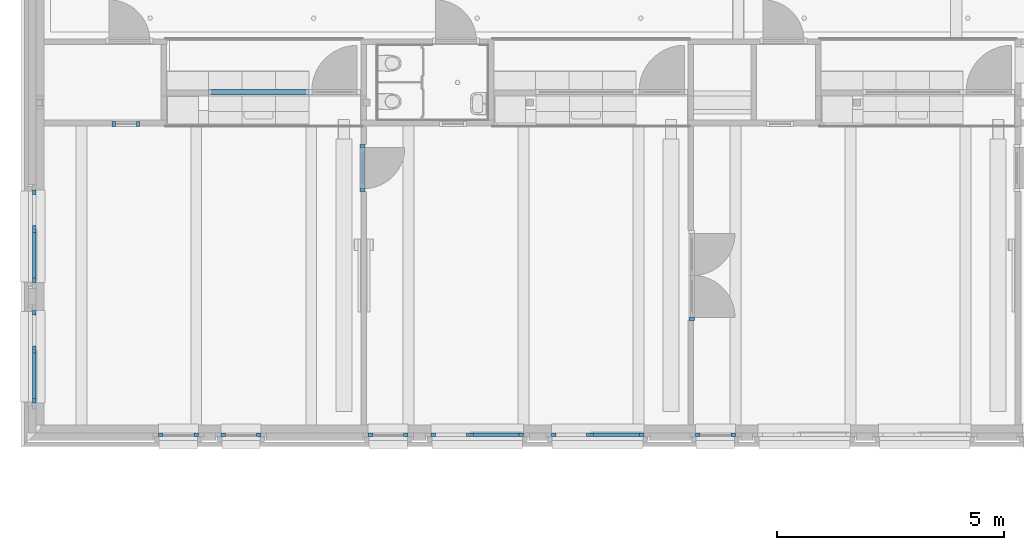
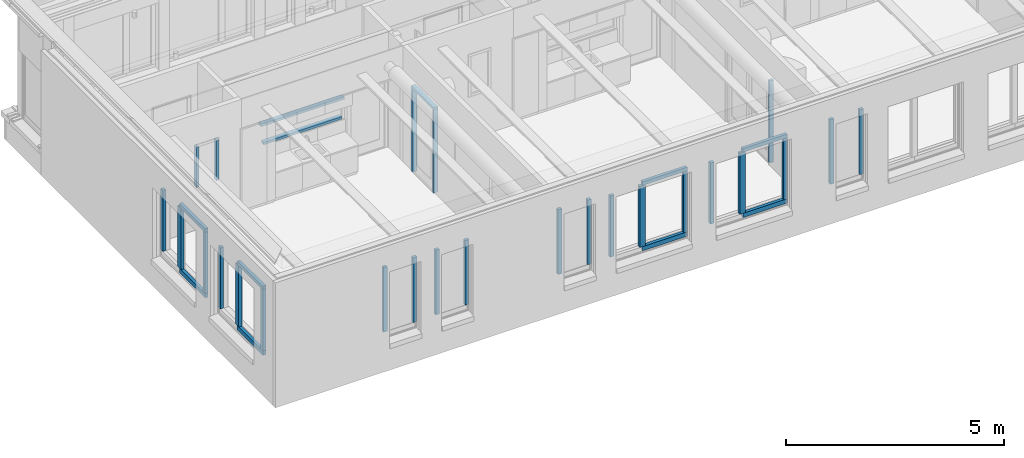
# One storey, part 13 of 128: 36 members, 12 elements without a shape of their own.
"""IFC2X3 building model written with IfcOpenShell, lengths in millimetres."""

from ifc_helpers import new_model, entity, si_unit, converted_unit, derived_unit, direction, frame, frame_2d, origin, origin_2d_with_axis, place, context, subcontext, project, spatial, rectangle, extrude, source, transform, mapped, material, type_object, type_shapes, element, aggregate, save


model = new_model("IFC2X3")

# Units and contexts
model_context = context("Model", 3, precision=0.01, world=origin(), true_north=direction((6.123031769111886e-17, 1.0)))
body_context = subcontext(model_context, "Body", "Model", "MODEL_VIEW")
ifc_project = project(units=[si_unit("LENGTHUNIT", "METRE", prefix="MILLI"), si_unit("AREAUNIT", "SQUARE_METRE"), si_unit("VOLUMEUNIT", "CUBIC_METRE"), converted_unit("PLANEANGLEUNIT", "DEGREE", entity("IfcRatioMeasure", 0.017453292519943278), si_unit("PLANEANGLEUNIT", "RADIAN"), dimensions=[0, 0, 0, 0, 0, 0, 0]), si_unit("MASSUNIT", "GRAM", prefix="KILO"), derived_unit("MASSDENSITYUNIT", [(si_unit("MASSUNIT", "GRAM", prefix="KILO"), 1), (si_unit("LENGTHUNIT", "METRE"), -3)]), derived_unit("IONCONCENTRATIONUNIT", [(si_unit("MASSUNIT", "GRAM", prefix="KILO"), 1), (si_unit("LENGTHUNIT", "METRE"), -3)]), derived_unit("MOMENTOFINERTIAUNIT", [(si_unit("LENGTHUNIT", "METRE"), 4)]), si_unit("TIMEUNIT", "SECOND"), si_unit("FREQUENCYUNIT", "HERTZ"), si_unit("THERMODYNAMICTEMPERATUREUNIT", "DEGREE_CELSIUS"), derived_unit("THERMALTRANSMITTANCEUNIT", [(si_unit("MASSUNIT", "GRAM", prefix="KILO"), 1), (si_unit("THERMODYNAMICTEMPERATUREUNIT", "KELVIN"), -1), (si_unit("TIMEUNIT", "SECOND"), -3)]), derived_unit("THERMALCONDUCTANCEUNIT", [(si_unit("MASSUNIT", "GRAM", prefix="KILO"), 1), (si_unit("THERMODYNAMICTEMPERATUREUNIT", "KELVIN"), -1), (si_unit("TIMEUNIT", "SECOND"), -3), (si_unit("LENGTHUNIT", "METRE"), 1)]), derived_unit("VOLUMETRICFLOWRATEUNIT", [(si_unit("LENGTHUNIT", "METRE"), 3), (si_unit("TIMEUNIT", "SECOND"), -1)]), derived_unit("MASSFLOWRATEUNIT", [(si_unit("MASSUNIT", "GRAM", prefix="KILO"), 1), (si_unit("TIMEUNIT", "SECOND"), -1)]), derived_unit("ROTATIONALFREQUENCYUNIT", [(si_unit("TIMEUNIT", "SECOND"), -1)]), si_unit("ELECTRICCURRENTUNIT", "AMPERE"), si_unit("ELECTRICVOLTAGEUNIT", "VOLT"), si_unit("POWERUNIT", "WATT"), si_unit("FORCEUNIT", "NEWTON", prefix="KILO"), si_unit("ILLUMINANCEUNIT", "LUX"), si_unit("LUMINOUSFLUXUNIT", "LUMEN"), si_unit("LUMINOUSINTENSITYUNIT", "CANDELA"), derived_unit("USERDEFINED", [(si_unit("MASSUNIT", "GRAM", prefix="KILO"), -1), (si_unit("LENGTHUNIT", "METRE"), -2), (si_unit("TIMEUNIT", "SECOND"), 3), (si_unit("LUMINOUSFLUXUNIT", "LUMEN"), 1)]), derived_unit("USERDEFINED", [(si_unit("MASSUNIT", "GRAM", prefix="KILO"), 1), (si_unit("TIMEUNIT", "SECOND"), -3), (si_unit("LENGTHUNIT", "METRE"), 3), (si_unit("ELECTRICCURRENTUNIT", "AMPERE"), -2)]), derived_unit("SOUNDPOWERUNIT", [(si_unit("MASSUNIT", "GRAM", prefix="KILO"), 1), (si_unit("TIMEUNIT", "SECOND"), -3), (si_unit("LENGTHUNIT", "METRE"), 2)]), derived_unit("SOUNDPRESSUREUNIT", [(si_unit("MASSUNIT", "GRAM", prefix="KILO"), 1), (si_unit("LENGTHUNIT", "METRE"), -1), (si_unit("TIMEUNIT", "SECOND"), -2)]), derived_unit("LINEARVELOCITYUNIT", [(si_unit("LENGTHUNIT", "METRE"), 1), (si_unit("TIMEUNIT", "SECOND"), -1)]), si_unit("PRESSUREUNIT", "PASCAL"), derived_unit("USERDEFINED", [(si_unit("MASSUNIT", "GRAM", prefix="KILO"), 1), (si_unit("LENGTHUNIT", "METRE"), -2), (si_unit("TIMEUNIT", "SECOND"), -2)]), derived_unit("LINEARFORCEUNIT", [(si_unit("MASSUNIT", "GRAM", prefix="KILO"), 1), (si_unit("TIMEUNIT", "SECOND"), -2)]), derived_unit("PLANARFORCEUNIT", [(si_unit("MASSUNIT", "GRAM", prefix="KILO"), 1), (si_unit("LENGTHUNIT", "METRE"), -1), (si_unit("TIMEUNIT", "SECOND"), -2)]), derived_unit("SPECIFICHEATCAPACITYUNIT", [(si_unit("THERMODYNAMICTEMPERATUREUNIT", "KELVIN"), -1), (si_unit("LENGTHUNIT", "METRE"), 2), (si_unit("TIMEUNIT", "SECOND"), -2)]), derived_unit("HEATINGVALUEUNIT", [(si_unit("LENGTHUNIT", "METRE"), 2), (si_unit("TIMEUNIT", "SECOND"), -2)]), derived_unit("VAPORPERMEABILITYUNIT", [(si_unit("LENGTHUNIT", "METRE"), -1), (si_unit("TIMEUNIT", "SECOND"), 1)]), derived_unit("DYNAMICVISCOSITYUNIT", [(si_unit("MASSUNIT", "GRAM", prefix="KILO"), 1), (si_unit("TIMEUNIT", "SECOND"), -1), (si_unit("LENGTHUNIT", "METRE"), -1)]), derived_unit("THERMALEXPANSIONCOEFFICIENTUNIT", [(si_unit("THERMODYNAMICTEMPERATUREUNIT", "KELVIN"), -1)]), derived_unit("MODULUSOFELASTICITYUNIT", [(si_unit("MASSUNIT", "GRAM", prefix="KILO"), 1), (si_unit("LENGTHUNIT", "METRE"), -1), (si_unit("TIMEUNIT", "SECOND"), -2)]), derived_unit("ISOTHERMALMOISTURECAPACITYUNIT", [(si_unit("LENGTHUNIT", "METRE"), 3), (si_unit("MASSUNIT", "GRAM", prefix="KILO"), -1)]), derived_unit("MOISTUREDIFFUSIVITYUNIT", [(si_unit("TIMEUNIT", "SECOND"), -1), (si_unit("LENGTHUNIT", "METRE"), 2)])], contexts=[model_context])

# Site, building, storey
site_placement = place(None, frame((0.0, 300.0, 0.0)))
site = spatial("IfcSite", under=ifc_project, at=site_placement, Name="<Kadastrale nummers>", CompositionType="ELEMENT")
building_placement = place(site_placement, origin())
building = spatial("IfcBuilding", under=site, at=building_placement, CompositionType="ELEMENT")
storey_placement = place(building_placement, frame((0.0, 0.0, 3560.0000331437)))
storey = spatial("IfcBuildingStorey", under=building, at=storey_placement, Name="01 eerste verdieping", CompositionType="ELEMENT", Elevation=3560.0000331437)

# Curtain wall, members
curtain_wall_type_1 = type_object("IfcCurtainWallType", Name="Curtain Wall:Merk H16", PredefinedType="NOTDEFINED")
curtain_wall_1_placement = place(storey_placement, frame((0.0, 0.0, -3560.0000331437)))
curtain_wall_1 = element("IfcCurtainWall", 1, at=curtain_wall_1_placement, inside=storey, type_object=curtain_wall_type_1, Name="Curtain Wall:Merk H16", ObjectType="Curtain Wall:Merk H16")
ifc_material_1 = material(Name="ISR_HPL")
member_type_1 = type_object("IfcMemberType", Name="Rectangular Mullion:31_CWM_067x114", PredefinedType="MULLION", material=ifc_material_1)
shared_shape_1 = source(origin(), body_context, "Body", "SweptSolid", [
    extrude(rectangle(XDim=113.99999999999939, YDim=67.0, at=origin_2d_with_axis()), frame((-33.5, 57.0, -2323.0), z_axis=(0.0, 0.0, 1.0), x_axis=(0.0, -1.0, 0.0)), (0.0, 0.0, 1.0), 2323.0),
])
type_shapes(member_type_1, [shared_shape_1])
member_1_placement = place(curtain_wall_1_placement, frame((10060.0, 44375.0, 3650.000035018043), z_axis=(0.0, 0.0, -1.0), x_axis=(0.0, 1.0, 0.0)))
member_1 = element("IfcMember", 2, at=member_1_placement, type_object=member_type_1, material=ifc_material_1, Name="Rectangular Mullion:31_CWM_067x114", ObjectType="Rectangular Mullion:31_CWM_067x114", context=body_context, shape_type="MappedRepresentation", body=[
    mapped(shared_shape_1, transform((0.0, 0.0, 0.0), scale=1.0)),
])
member_type_2 = type_object("IfcMemberType", Name="Rectangular Mullion:31_CWM_067x114", PredefinedType="MULLION", material=ifc_material_1)
shared_shape_2 = source(origin(), body_context, "Body", "SweptSolid", [
    extrude(rectangle(XDim=113.99999999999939, YDim=67.0, at=origin_2d_with_axis()), frame((-33.5, 57.0, -2323.0), z_axis=(0.0, 0.0, 1.0), x_axis=(0.0, -1.0, 0.0)), (0.0, 0.0, 1.0), 2323.0),
])
type_shapes(member_type_2, [shared_shape_2])
member_2_placement = place(curtain_wall_1_placement, frame((10060.0, 43341.0, 5973.0000331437), z_axis=(0.0, 0.0, 1.0), x_axis=(0.0, -1.0, 0.0)))
member_2 = element("IfcMember", 3, at=member_2_placement, type_object=member_type_2, material=ifc_material_1, Name="Rectangular Mullion:31_CWM_067x114", ObjectType="Rectangular Mullion:31_CWM_067x114", context=body_context, shape_type="MappedRepresentation", body=[
    mapped(shared_shape_2, transform((0.0, 0.0, 0.0), scale=1.0)),
])
member_type_3 = type_object("IfcMemberType", Name="Rectangular Mullion:31_CWM_067x114", PredefinedType="MULLION", material=ifc_material_1)
shared_shape_3 = source(origin(), body_context, "Body", "SweptSolid", [
    extrude(rectangle(XDim=113.99999999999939, YDim=67.0, at=origin_2d_with_axis()), frame((-33.5, 57.0, -1034.0), z_axis=(0.0, 0.0, 1.0), x_axis=(0.0, -1.0, 0.0)), (0.0, 0.0, 1.0), 1033.9999999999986),
])
type_shapes(member_type_3, [shared_shape_3])
member_3_placement = place(curtain_wall_1_placement, frame((10060.0, 44375.0, 6040.0000331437), z_axis=(0.0, 1.0, 0.0), x_axis=(0.0, 0.0, 1.0)))
member_3 = element("IfcMember", 4, at=member_3_placement, type_object=member_type_3, material=ifc_material_1, Name="Rectangular Mullion:31_CWM_067x114", ObjectType="Rectangular Mullion:31_CWM_067x114", context=body_context, shape_type="MappedRepresentation", body=[
    mapped(shared_shape_3, transform((0.0, 0.0, 0.0), scale=1.0)),
])
aggregate(curtain_wall_1, [member_3, member_1, member_2])

# Curtain wall, member
curtain_wall_type_2 = type_object("IfcCurtainWallType", Name="Curtain Wall:Merk H07", PredefinedType="NOTDEFINED")
curtain_wall_2_placement = place(storey_placement, frame((0.0, 0.0, -3560.0000331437)))
curtain_wall_2 = element("IfcCurtainWall", 5, at=curtain_wall_2_placement, inside=storey, type_object=curtain_wall_type_2, Name="Curtain Wall:Merk H07", ObjectType="Curtain Wall:Merk H07")
member_type_4 = type_object("IfcMemberType", Name="Rectangular Mullion:31_CWM_067x114", PredefinedType="MULLION", material=ifc_material_1)
shared_shape_4 = source(origin(), body_context, "Body", "SweptSolid", [
    extrude(rectangle(XDim=113.99999999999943, YDim=67.0, at=origin_2d_with_axis()), frame((-33.5, 57.0, -2303.0), z_axis=(0.0, 0.0, 1.0), x_axis=(0.0, -1.0, 0.0)), (0.0, 0.0, 1.0), 2303.0000000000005),
])
type_shapes(member_type_4, [shared_shape_4])
member_4_placement = place(curtain_wall_2_placement, frame((17306.0, 40505.0, 5973.0000331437), z_axis=(0.0, 0.0, 1.0), x_axis=(0.0, -1.0, 0.0)))
member_4 = element("IfcMember", 6, at=member_4_placement, type_object=member_type_4, material=ifc_material_1, Name="Rectangular Mullion:31_CWM_067x114", ObjectType="Rectangular Mullion:31_CWM_067x114", context=body_context, shape_type="MappedRepresentation", body=[
    mapped(shared_shape_4, transform((0.0, 0.0, 0.0), scale=1.0)),
])
aggregate(curtain_wall_2, [member_4])

# Curtain wall, members
curtain_wall_type_3 = type_object("IfcCurtainWallType", Name="Curtain Wall:Merk H05", PredefinedType="NOTDEFINED")
curtain_wall_3_placement = place(storey_placement, frame((0.0, 0.0, -3560.0000331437)))
curtain_wall_3 = element("IfcCurtainWall", 7, at=curtain_wall_3_placement, inside=storey, type_object=curtain_wall_type_3, Name="Curtain Wall:Merk H05", ObjectType="Curtain Wall:Merk H05")
member_type_5 = type_object("IfcMemberType", Name="Rectangular Mullion:31_CWM_067x114", PredefinedType="MULLION", material=ifc_material_1)
shared_shape_5 = source(origin(), body_context, "Body", "SweptSolid", [
    extrude(rectangle(XDim=113.9999999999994, YDim=67.0, at=frame_2d((1.0658141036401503e-14, 0.0), x_axis=(1.0, 0.0))), frame((-33.5, -57.0, -1123.0), z_axis=(0.0, 0.0, 1.0), x_axis=(0.0, -1.0, 0.0)), (0.0, 0.0, 1.0), 1123.0000000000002),
])
type_shapes(member_type_5, [shared_shape_5])
member_5_placement = place(curtain_wall_3_placement, frame((4605.0, 44889.0, 4850.0000331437), z_axis=(0.0, 0.0, -1.0), x_axis=(-1.0, 0.0, 0.0)))
member_5 = element("IfcMember", 8, at=member_5_placement, type_object=member_type_5, material=ifc_material_1, Name="Rectangular Mullion:31_CWM_067x114", ObjectType="Rectangular Mullion:31_CWM_067x114", context=body_context, shape_type="MappedRepresentation", body=[
    mapped(shared_shape_5, transform((0.0, 0.0, 0.0), scale=1.0)),
])
member_type_6 = type_object("IfcMemberType", Name="Rectangular Mullion:31_CWM_067x114", PredefinedType="MULLION", material=ifc_material_1)
shared_shape_6 = source(origin(), body_context, "Body", "SweptSolid", [
    extrude(rectangle(XDim=113.9999999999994, YDim=67.0, at=frame_2d((1.0658141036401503e-14, 0.0), x_axis=(1.0, 0.0))), frame((-33.5, -57.0, -1123.0), z_axis=(0.0, 0.0, 1.0), x_axis=(0.0, -1.0, 0.0)), (0.0, 0.0, 1.0), 1123.0000000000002),
])
type_shapes(member_type_6, [shared_shape_6])
member_6_placement = place(curtain_wall_3_placement, frame((5205.0, 44889.0, 5973.0000331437)))
member_6 = element("IfcMember", 9, at=member_6_placement, type_object=member_type_6, material=ifc_material_1, Name="Rectangular Mullion:31_CWM_067x114", ObjectType="Rectangular Mullion:31_CWM_067x114", context=body_context, shape_type="MappedRepresentation", body=[
    mapped(shared_shape_6, transform((0.0, 0.0, 0.0), scale=1.0)),
])
aggregate(curtain_wall_3, [member_5, member_6])

curtain_wall_type_4 = type_object("IfcCurtainWallType", Name="Curtain Wall:Merk H13", PredefinedType="NOTDEFINED")
curtain_wall_4_placement = place(storey_placement, frame((0.0, 0.0, -3560.0000331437)))
curtain_wall_4 = element("IfcCurtainWall", 10, at=curtain_wall_4_placement, inside=storey, type_object=curtain_wall_type_4, Name="Curtain Wall:Merk H13", ObjectType="Curtain Wall:Merk H13")
member_type_7 = type_object("IfcMemberType", Name="Rectangular Mullion:31_CWM_067x114", PredefinedType="MULLION", material=ifc_material_1)
shared_shape_7 = source(origin(), body_context, "Body", "SweptSolid", [
    extrude(rectangle(XDim=113.9999999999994, YDim=67.0, at=frame_2d((1.0658141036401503e-14, 0.0), x_axis=(1.0, 0.0))), frame((-33.5, -57.0, -2205.0), z_axis=(0.0, 0.0, 1.0), x_axis=(0.0, -1.0, 0.0)), (0.0, 0.0, 1.0), 2205.0000000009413),
])
type_shapes(member_type_7, [shared_shape_7])
member_7_placement = place(curtain_wall_4_placement, frame((8931.0, 45476.0, 5450.0000331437), z_axis=(1.0, 0.0, 0.0), x_axis=(0.0, 0.0, 1.0)))
member_7 = element("IfcMember", 11, at=member_7_placement, type_object=member_type_7, material=ifc_material_1, Name="Rectangular Mullion:31_CWM_067x114", ObjectType="Rectangular Mullion:31_CWM_067x114", context=body_context, shape_type="MappedRepresentation", body=[
    mapped(shared_shape_7, transform((0.0, 0.0, 0.0), scale=1.0)),
])
member_type_8 = type_object("IfcMemberType", Name="Rectangular Mullion:31_CWM_067x114", PredefinedType="MULLION", material=ifc_material_1)
shared_shape_8 = source(origin(), body_context, "Body", "SweptSolid", [
    extrude(rectangle(XDim=113.9999999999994, YDim=67.0, at=frame_2d((1.0658141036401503e-14, 0.0), x_axis=(1.0, 0.0))), frame((-33.5, -57.0, -2071.0), z_axis=(0.0, 0.0, 1.0), x_axis=(0.0, -1.0, 0.0)), (0.0, 0.0, 1.0), 2071.000000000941),
])
type_shapes(member_type_8, [shared_shape_8])
member_8_placement = place(curtain_wall_4_placement, frame((6793.0, 45476.0, 4850.0000331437), z_axis=(-1.0, 0.0, 0.0), x_axis=(0.0, 0.0, -1.0)))
member_8 = element("IfcMember", 12, at=member_8_placement, type_object=member_type_8, material=ifc_material_1, Name="Rectangular Mullion:31_CWM_067x114", ObjectType="Rectangular Mullion:31_CWM_067x114", context=body_context, shape_type="MappedRepresentation", body=[
    mapped(shared_shape_8, transform((0.0, 0.0, 0.0), scale=1.0)),
])
aggregate(curtain_wall_4, [member_7, member_8])

# Curtain wall, member
curtain_wall_type_5 = type_object("IfcCurtainWallType", Name="Curtain Wall:K_28", PredefinedType="NOTDEFINED")
curtain_wall_5_placement = place(storey_placement, frame((0.0, 0.0, -3560.0000331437)))
curtain_wall_5 = element("IfcCurtainWall", 13, at=curtain_wall_5_placement, inside=storey, type_object=curtain_wall_type_5, Name="Curtain Wall:K_28", ObjectType="Curtain Wall:K_28")
ifc_material_2 = material(Name="ISR_Kunststof_RAL7006")
member_type_9 = type_object("IfcMemberType", Name="Rectangular Mullion:100x83 Gealan Kubus", PredefinedType="MULLION", material=ifc_material_2)
shared_shape_9 = source(origin(), body_context, "Body", "SweptSolid", [
    extrude(rectangle(XDim=83.0, YDim=100.0, at=origin_2d_with_axis()), frame((-50.0, 41.5, -1810.0), z_axis=(0.0, 0.0, 1.0), x_axis=(0.0, -1.0, 0.0)), (0.0, 0.0, 1.0), 1810.0),
])
type_shapes(member_type_9, [shared_shape_9])
member_9_placement = place(curtain_wall_5_placement, frame((11120.0, 38032.0, 4580.000035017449), z_axis=(0.0, 0.0, -1.0), x_axis=(1.0, 0.0, 0.0)))
member_9 = element("IfcMember", 14, at=member_9_placement, type_object=member_type_9, material=ifc_material_2, Name="Rectangular Mullion:100x83 Gealan Kubus", ObjectType="Rectangular Mullion:100x83 Gealan Kubus", context=body_context, shape_type="MappedRepresentation", body=[
    mapped(shared_shape_9, transform((0.0, 0.0, 0.0), scale=1.0)),
])

curtain_wall_6_placement = place(storey_placement, frame((0.0, 0.0, -3560.0000331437)))
curtain_wall_6 = element("IfcCurtainWall", 15, at=curtain_wall_6_placement, inside=storey, type_object=curtain_wall_type_5, Name="Curtain Wall:K_28", ObjectType="Curtain Wall:K_28")
member_10_placement = place(curtain_wall_6_placement, frame((18320.0, 38032.0, 4580.000035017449), z_axis=(0.0, 0.0, -1.0), x_axis=(1.0, 0.0, 0.0)))
member_10 = element("IfcMember", 16, at=member_10_placement, type_object=member_type_9, material=ifc_material_2, Name="Rectangular Mullion:100x83 Gealan Kubus", ObjectType="Rectangular Mullion:100x83 Gealan Kubus", context=body_context, shape_type="MappedRepresentation", body=[
    mapped(shared_shape_9, transform((0.0, 0.0, 0.0), scale=1.0)),
])

curtain_wall_7_placement = place(storey_placement, frame((0.0, 0.0, -3560.0000331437)))
curtain_wall_7 = element("IfcCurtainWall", 17, at=curtain_wall_7_placement, inside=storey, type_object=curtain_wall_type_5, Name="Curtain Wall:K_28", ObjectType="Curtain Wall:K_28")
member_11_placement = place(curtain_wall_7_placement, frame((7880.0, 38032.0, 4580.000035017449), z_axis=(0.0, 0.0, -1.0), x_axis=(1.0, 0.0, 0.0)))
member_11 = element("IfcMember", 18, at=member_11_placement, type_object=member_type_9, material=ifc_material_2, Name="Rectangular Mullion:100x83 Gealan Kubus", ObjectType="Rectangular Mullion:100x83 Gealan Kubus", context=body_context, shape_type="MappedRepresentation", body=[
    mapped(shared_shape_9, transform((0.0, 0.0, 0.0), scale=1.0)),
])

curtain_wall_8_placement = place(storey_placement, frame((0.0, 0.0, -3560.0000331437)))
curtain_wall_8 = element("IfcCurtainWall", 19, at=curtain_wall_8_placement, inside=storey, type_object=curtain_wall_type_5, Name="Curtain Wall:K_28", ObjectType="Curtain Wall:K_28")
member_12_placement = place(curtain_wall_8_placement, frame((6500.0, 38032.0, 4580.000035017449), z_axis=(0.0, 0.0, -1.0), x_axis=(1.0, 0.0, 0.0)))
member_12 = element("IfcMember", 20, at=member_12_placement, type_object=member_type_9, material=ifc_material_2, Name="Rectangular Mullion:100x83 Gealan Kubus", ObjectType="Rectangular Mullion:100x83 Gealan Kubus", context=body_context, shape_type="MappedRepresentation", body=[
    mapped(shared_shape_9, transform((0.0, 0.0, 0.0), scale=1.0)),
])

# Member
member_type_10 = type_object("IfcMemberType", Name="Rectangular Mullion:100x83 Gealan Kubus", PredefinedType="MULLION", material=ifc_material_2)
shared_shape_10 = source(origin(), body_context, "Body", "SweptSolid", [
    extrude(rectangle(XDim=83.0, YDim=100.0, at=origin_2d_with_axis()), frame((-50.0, 41.5, -1810.0), z_axis=(0.0, 0.0, 1.0), x_axis=(0.0, -1.0, 0.0)), (0.0, 0.0, 1.0), 1810.0),
])
type_shapes(member_type_10, [shared_shape_10])
member_13_placement = place(curtain_wall_5_placement, frame((10240.0, 38032.0, 6390.00003501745), z_axis=(0.0, 0.0, 1.0), x_axis=(-1.0, 0.0, 0.0)))
member_13 = element("IfcMember", 21, at=member_13_placement, type_object=member_type_10, material=ifc_material_2, Name="Rectangular Mullion:100x83 Gealan Kubus", ObjectType="Rectangular Mullion:100x83 Gealan Kubus", context=body_context, shape_type="MappedRepresentation", body=[
    mapped(shared_shape_10, transform((0.0, 0.0, 0.0), scale=1.0)),
])

aggregate(curtain_wall_5, [member_9, member_13])

member_14_placement = place(curtain_wall_6_placement, frame((17440.0, 38032.0, 6390.00003501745), z_axis=(0.0, 0.0, 1.0), x_axis=(-1.0, 0.0, 0.0)))
member_14 = element("IfcMember", 22, at=member_14_placement, type_object=member_type_10, material=ifc_material_2, Name="Rectangular Mullion:100x83 Gealan Kubus", ObjectType="Rectangular Mullion:100x83 Gealan Kubus", context=body_context, shape_type="MappedRepresentation", body=[
    mapped(shared_shape_10, transform((0.0, 0.0, 0.0), scale=1.0)),
])

aggregate(curtain_wall_6, [member_10, member_14])

member_15_placement = place(curtain_wall_7_placement, frame((7000.0, 38032.0, 6390.00003501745), z_axis=(0.0, 0.0, 1.0), x_axis=(-1.0, 0.0, 0.0)))
member_15 = element("IfcMember", 23, at=member_15_placement, type_object=member_type_10, material=ifc_material_2, Name="Rectangular Mullion:100x83 Gealan Kubus", ObjectType="Rectangular Mullion:100x83 Gealan Kubus", context=body_context, shape_type="MappedRepresentation", body=[
    mapped(shared_shape_10, transform((0.0, 0.0, 0.0), scale=1.0)),
])

aggregate(curtain_wall_7, [member_11, member_15])

member_16_placement = place(curtain_wall_8_placement, frame((5620.0, 38032.0, 6390.00003501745), z_axis=(0.0, 0.0, 1.0), x_axis=(-1.0, 0.0, 0.0)))
member_16 = element("IfcMember", 24, at=member_16_placement, type_object=member_type_10, material=ifc_material_2, Name="Rectangular Mullion:100x83 Gealan Kubus", ObjectType="Rectangular Mullion:100x83 Gealan Kubus", context=body_context, shape_type="MappedRepresentation", body=[
    mapped(shared_shape_10, transform((0.0, 0.0, 0.0), scale=1.0)),
])

aggregate(curtain_wall_8, [member_12, member_16])

# Curtain wall, member
curtain_wall_type_6 = type_object("IfcCurtainWallType", Name="Curtain Wall:K_24", PredefinedType="NOTDEFINED")
curtain_wall_9_placement = place(storey_placement, frame((0.0, 0.0, -3560.0000331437)))
curtain_wall_9 = element("IfcCurtainWall", 25, at=curtain_wall_9_placement, inside=storey, type_object=curtain_wall_type_6, Name="Curtain Wall:K_24", ObjectType="Curtain Wall:K_24")
member_type_11 = type_object("IfcMemberType", Name="Rectangular Mullion:100x83 Gealan Kubus", PredefinedType="MULLION", material=ifc_material_2)
shared_shape_11 = source(origin(), body_context, "Body", "SweptSolid", [
    extrude(rectangle(XDim=82.99999999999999, YDim=100.0, at=origin_2d_with_axis()), frame((-50.0, 41.49999999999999, -1709.9999649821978), z_axis=(0.0, 0.0, 1.0), x_axis=(0.0, -1.0, 0.0)), (0.0, 0.0, 1.0), 1709.9999649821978),
])
type_shapes(member_type_11, [shared_shape_11])
member_17_placement = place(curtain_wall_9_placement, frame((16310.0, 38031.99862327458, 4580.000035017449), z_axis=(0.0, 0.0, -1.0), x_axis=(1.0, 0.0, 0.0)))
member_17 = element("IfcMember", 26, at=member_17_placement, type_object=member_type_11, material=ifc_material_2, Name="Rectangular Mullion:100x83 Gealan Kubus", ObjectType="Rectangular Mullion:100x83 Gealan Kubus", context=body_context, shape_type="MappedRepresentation", body=[
    mapped(shared_shape_11, transform((0.0, 0.0, 0.0), scale=1.0)),
])

curtain_wall_10_placement = place(storey_placement, frame((0.0, 0.0, -3560.0000331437)))
curtain_wall_10 = element("IfcCurtainWall", 27, at=curtain_wall_10_placement, inside=storey, type_object=curtain_wall_type_6, Name="Curtain Wall:K_24", ObjectType="Curtain Wall:K_24")
member_18_placement = place(curtain_wall_10_placement, frame((13660.0, 38031.99862327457, 4580.000035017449), z_axis=(0.0, 0.0, -1.0), x_axis=(1.0, 0.0, 0.0)))
member_18 = element("IfcMember", 28, at=member_18_placement, type_object=member_type_11, material=ifc_material_2, Name="Rectangular Mullion:100x83 Gealan Kubus", ObjectType="Rectangular Mullion:100x83 Gealan Kubus", context=body_context, shape_type="MappedRepresentation", body=[
    mapped(shared_shape_11, transform((0.0, 0.0, 0.0), scale=1.0)),
])

curtain_wall_11_placement = place(storey_placement, frame((0.0, 0.0, -3560.0000331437)))
curtain_wall_11 = element("IfcCurtainWall", 29, at=curtain_wall_11_placement, inside=storey, type_object=curtain_wall_type_6, Name="Curtain Wall:K_24", ObjectType="Curtain Wall:K_24")
member_19_placement = place(curtain_wall_11_placement, frame((2931.99862327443, 38685.0, 4580.000035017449), z_axis=(0.0, 0.0, -1.0), x_axis=(0.0, -1.0, 0.0)))
member_19 = element("IfcMember", 30, at=member_19_placement, type_object=member_type_11, material=ifc_material_2, Name="Rectangular Mullion:100x83 Gealan Kubus", ObjectType="Rectangular Mullion:100x83 Gealan Kubus", context=body_context, shape_type="MappedRepresentation", body=[
    mapped(shared_shape_11, transform((0.0, 0.0, 0.0), scale=1.0)),
])

curtain_wall_12_placement = place(storey_placement, frame((0.0, 0.0, -3560.0000331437)))
curtain_wall_12 = element("IfcCurtainWall", 31, at=curtain_wall_12_placement, inside=storey, type_object=curtain_wall_type_6, Name="Curtain Wall:K_24", ObjectType="Curtain Wall:K_24")
member_20_placement = place(curtain_wall_12_placement, frame((2931.9986232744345, 41335.0, 4580.000035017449), z_axis=(0.0, 0.0, -1.0), x_axis=(0.0, -1.0, 0.0)))
member_20 = element("IfcMember", 32, at=member_20_placement, type_object=member_type_11, material=ifc_material_2, Name="Rectangular Mullion:100x83 Gealan Kubus", ObjectType="Rectangular Mullion:100x83 Gealan Kubus", context=body_context, shape_type="MappedRepresentation", body=[
    mapped(shared_shape_11, transform((0.0, 0.0, 0.0), scale=1.0)),
])

# Member
member_type_12 = type_object("IfcMemberType", Name="Rectangular Mullion:100x83 Gealan Kubus", PredefinedType="MULLION", material=ifc_material_2)
shared_shape_12 = source(origin(), body_context, "Body", "SweptSolid", [
    extrude(rectangle(XDim=83.00000000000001, YDim=100.0, at=origin_2d_with_axis()), frame((-50.0, 41.50000000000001, -1709.9999649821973), z_axis=(0.0, 0.0, 1.0), x_axis=(0.0, -1.0, 0.0)), (0.0, 0.0, 1.0), 1709.9999649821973),
])
type_shapes(member_type_12, [shared_shape_12])
member_21_placement = place(curtain_wall_9_placement, frame((14270.0, 38031.998623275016, 6290.000035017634), z_axis=(0.0, 0.0, 1.0), x_axis=(-1.0, 0.0, 0.0)))
member_21 = element("IfcMember", 33, at=member_21_placement, type_object=member_type_12, material=ifc_material_2, Name="Rectangular Mullion:100x83 Gealan Kubus", ObjectType="Rectangular Mullion:100x83 Gealan Kubus", context=body_context, shape_type="MappedRepresentation", body=[
    mapped(shared_shape_12, transform((0.0, 0.0, 0.0), scale=1.0)),
])

member_22_placement = place(curtain_wall_10_placement, frame((11620.0, 38031.99862327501, 6290.000035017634), z_axis=(0.0, 0.0, 1.0), x_axis=(-1.0, 0.0, 0.0)))
member_22 = element("IfcMember", 34, at=member_22_placement, type_object=member_type_12, material=ifc_material_2, Name="Rectangular Mullion:100x83 Gealan Kubus", ObjectType="Rectangular Mullion:100x83 Gealan Kubus", context=body_context, shape_type="MappedRepresentation", body=[
    mapped(shared_shape_12, transform((0.0, 0.0, 0.0), scale=1.0)),
])

member_23_placement = place(curtain_wall_11_placement, frame((2931.9986232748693, 40725.0, 6290.000035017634), z_axis=(0.0, 0.0, 1.0), x_axis=(0.0, 1.0, 0.0)))
member_23 = element("IfcMember", 35, at=member_23_placement, type_object=member_type_12, material=ifc_material_2, Name="Rectangular Mullion:100x83 Gealan Kubus", ObjectType="Rectangular Mullion:100x83 Gealan Kubus", context=body_context, shape_type="MappedRepresentation", body=[
    mapped(shared_shape_12, transform((0.0, 0.0, 0.0), scale=1.0)),
])

member_24_placement = place(curtain_wall_12_placement, frame((2931.9986232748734, 43375.0, 6290.000035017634), z_axis=(0.0, 0.0, 1.0), x_axis=(0.0, 1.0, 0.0)))
member_24 = element("IfcMember", 36, at=member_24_placement, type_object=member_type_12, material=ifc_material_2, Name="Rectangular Mullion:100x83 Gealan Kubus", ObjectType="Rectangular Mullion:100x83 Gealan Kubus", context=body_context, shape_type="MappedRepresentation", body=[
    mapped(shared_shape_12, transform((0.0, 0.0, 0.0), scale=1.0)),
])

member_type_13 = type_object("IfcMemberType", Name="Rectangular Mullion:154x83 Gealan Kubus", PredefinedType="MULLION", material=ifc_material_2)
shared_shape_13 = source(origin(), body_context, "Body", "SweptSolid", [
    extrude(rectangle(XDim=83.00000000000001, YDim=154.0, at=origin_2d_with_axis()), frame((0.0, 41.50000000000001, -1710.0), z_axis=(0.0, 0.0, 1.0), x_axis=(0.0, -1.0, 0.0)), (0.0, 0.0, 1.0), 1710.0000000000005),
])
type_shapes(member_type_13, [shared_shape_13])
member_25_placement = place(curtain_wall_9_placement, frame((15127.0, 38031.998623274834, 4580.000035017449), z_axis=(0.0, 0.0, -1.0), x_axis=(1.0, 0.0, 0.0)))
member_25 = element("IfcMember", 37, at=member_25_placement, type_object=member_type_13, material=ifc_material_2, Name="Rectangular Mullion:154x83 Gealan Kubus", ObjectType="Rectangular Mullion:154x83 Gealan Kubus", context=body_context, shape_type="MappedRepresentation", body=[
    mapped(shared_shape_13, transform((0.0, 0.0, 0.0), scale=1.0)),
])

member_26_placement = place(curtain_wall_10_placement, frame((12477.0, 38031.99862327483, 4580.000035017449), z_axis=(0.0, 0.0, -1.0), x_axis=(1.0, 0.0, 0.0)))
member_26 = element("IfcMember", 38, at=member_26_placement, type_object=member_type_13, material=ifc_material_2, Name="Rectangular Mullion:154x83 Gealan Kubus", ObjectType="Rectangular Mullion:154x83 Gealan Kubus", context=body_context, shape_type="MappedRepresentation", body=[
    mapped(shared_shape_13, transform((0.0, 0.0, 0.0), scale=1.0)),
])

member_27_placement = place(curtain_wall_11_placement, frame((2931.998623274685, 39868.0, 4580.000035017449), z_axis=(0.0, 0.0, -1.0), x_axis=(0.0, -1.0, 0.0)))
member_27 = element("IfcMember", 39, at=member_27_placement, type_object=member_type_13, material=ifc_material_2, Name="Rectangular Mullion:154x83 Gealan Kubus", ObjectType="Rectangular Mullion:154x83 Gealan Kubus", context=body_context, shape_type="MappedRepresentation", body=[
    mapped(shared_shape_13, transform((0.0, 0.0, 0.0), scale=1.0)),
])

member_28_placement = place(curtain_wall_12_placement, frame((2931.998623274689, 42518.0, 4580.000035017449), z_axis=(0.0, 0.0, -1.0), x_axis=(0.0, -1.0, 0.0)))
member_28 = element("IfcMember", 40, at=member_28_placement, type_object=member_type_13, material=ifc_material_2, Name="Rectangular Mullion:154x83 Gealan Kubus", ObjectType="Rectangular Mullion:154x83 Gealan Kubus", context=body_context, shape_type="MappedRepresentation", body=[
    mapped(shared_shape_13, transform((0.0, 0.0, 0.0), scale=1.0)),
])

member_type_14 = type_object("IfcMemberType", Name="Rectangular Mullion:100x83 Gealan Kubus", PredefinedType="MULLION", material=ifc_material_2)
shared_shape_14 = source(origin(), body_context, "Body", "SweptSolid", [
    extrude(rectangle(XDim=83.0, YDim=100.0, at=origin_2d_with_axis()), frame((-50.0, 41.5, -1183.0), z_axis=(0.0, 0.0, 1.0), x_axis=(0.0, -1.0, 0.0)), (0.0, 0.0, 1.0), 1183.0000000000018),
])
type_shapes(member_type_14, [shared_shape_14])
member_29_placement = place(curtain_wall_9_placement, frame((16310.0, 38031.99862327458, 6390.000035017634), z_axis=(1.0, 0.0, 0.0), x_axis=(0.0, 0.0, 1.0)))
member_29 = element("IfcMember", 41, at=member_29_placement, type_object=member_type_14, material=ifc_material_2, Name="Rectangular Mullion:100x83 Gealan Kubus", ObjectType="Rectangular Mullion:100x83 Gealan Kubus", context=body_context, shape_type="MappedRepresentation", body=[
    mapped(shared_shape_14, transform((0.0, 0.0, 0.0), scale=1.0)),
])

member_30_placement = place(curtain_wall_10_placement, frame((13660.0, 38031.99862327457, 6390.000035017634), z_axis=(1.0, 0.0, 0.0), x_axis=(0.0, 0.0, 1.0)))
member_30 = element("IfcMember", 42, at=member_30_placement, type_object=member_type_14, material=ifc_material_2, Name="Rectangular Mullion:100x83 Gealan Kubus", ObjectType="Rectangular Mullion:100x83 Gealan Kubus", context=body_context, shape_type="MappedRepresentation", body=[
    mapped(shared_shape_14, transform((0.0, 0.0, 0.0), scale=1.0)),
])

member_31_placement = place(curtain_wall_11_placement, frame((2931.99862327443, 38685.0, 6390.000035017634), z_axis=(0.0, -1.0, 0.0), x_axis=(0.0, 0.0, 1.0)))
member_31 = element("IfcMember", 43, at=member_31_placement, type_object=member_type_14, material=ifc_material_2, Name="Rectangular Mullion:100x83 Gealan Kubus", ObjectType="Rectangular Mullion:100x83 Gealan Kubus", context=body_context, shape_type="MappedRepresentation", body=[
    mapped(shared_shape_14, transform((0.0, 0.0, 0.0), scale=1.0)),
])

member_32_placement = place(curtain_wall_12_placement, frame((2931.9986232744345, 41335.0, 6390.000035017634), z_axis=(0.0, -1.0, 0.0), x_axis=(0.0, 0.0, 1.0)))
member_32 = element("IfcMember", 44, at=member_32_placement, type_object=member_type_14, material=ifc_material_2, Name="Rectangular Mullion:100x83 Gealan Kubus", ObjectType="Rectangular Mullion:100x83 Gealan Kubus", context=body_context, shape_type="MappedRepresentation", body=[
    mapped(shared_shape_14, transform((0.0, 0.0, 0.0), scale=1.0)),
])

member_type_15 = type_object("IfcMemberType", Name="Rectangular Mullion:120x83 Gealan Kubus", PredefinedType="MULLION", material=ifc_material_2)
shared_shape_15 = source(origin(), body_context, "Body", "SweptSolid", [
    extrude(rectangle(XDim=83.00000000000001, YDim=120.0, at=origin_2d_with_axis()), frame((-60.0, 41.50000000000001, -1183.0), z_axis=(0.0, 0.0, 1.0), x_axis=(0.0, -1.0, 0.0)), (0.0, 0.0, 1.0), 1183.0000000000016),
])
type_shapes(member_type_15, [shared_shape_15])
member_33_placement = place(curtain_wall_9_placement, frame((15127.0, 38031.998623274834, 4460.000035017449), z_axis=(-1.0, 0.0, 0.0), x_axis=(0.0, 0.0, -1.0)))
member_33 = element("IfcMember", 45, at=member_33_placement, type_object=member_type_15, material=ifc_material_2, Name="Rectangular Mullion:120x83 Gealan Kubus", ObjectType="Rectangular Mullion:120x83 Gealan Kubus", context=body_context, shape_type="MappedRepresentation", body=[
    mapped(shared_shape_15, transform((0.0, 0.0, 0.0), scale=1.0)),
])

aggregate(curtain_wall_9, [member_29, member_17, member_21, member_33, member_25])

member_34_placement = place(curtain_wall_10_placement, frame((12477.0, 38031.99862327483, 4460.000035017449), z_axis=(-1.0, 0.0, 0.0), x_axis=(0.0, 0.0, -1.0)))
member_34 = element("IfcMember", 46, at=member_34_placement, type_object=member_type_15, material=ifc_material_2, Name="Rectangular Mullion:120x83 Gealan Kubus", ObjectType="Rectangular Mullion:120x83 Gealan Kubus", context=body_context, shape_type="MappedRepresentation", body=[
    mapped(shared_shape_15, transform((0.0, 0.0, 0.0), scale=1.0)),
])

aggregate(curtain_wall_10, [member_30, member_18, member_22, member_34, member_26])

member_35_placement = place(curtain_wall_11_placement, frame((2931.998623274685, 39868.0, 4460.000035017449), z_axis=(0.0, 1.0, 0.0), x_axis=(0.0, 0.0, -1.0)))
member_35 = element("IfcMember", 47, at=member_35_placement, type_object=member_type_15, material=ifc_material_2, Name="Rectangular Mullion:120x83 Gealan Kubus", ObjectType="Rectangular Mullion:120x83 Gealan Kubus", context=body_context, shape_type="MappedRepresentation", body=[
    mapped(shared_shape_15, transform((0.0, 0.0, 0.0), scale=1.0)),
])

aggregate(curtain_wall_11, [member_31, member_19, member_23, member_35, member_27])

member_36_placement = place(curtain_wall_12_placement, frame((2931.998623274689, 42518.0, 4460.000035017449), z_axis=(0.0, 1.0, 0.0), x_axis=(0.0, 0.0, -1.0)))
member_36 = element("IfcMember", 48, at=member_36_placement, type_object=member_type_15, material=ifc_material_2, Name="Rectangular Mullion:120x83 Gealan Kubus", ObjectType="Rectangular Mullion:120x83 Gealan Kubus", context=body_context, shape_type="MappedRepresentation", body=[
    mapped(shared_shape_15, transform((0.0, 0.0, 0.0), scale=1.0)),
])

aggregate(curtain_wall_12, [member_32, member_20, member_24, member_36, member_28])

save(model, "model.ifc")
